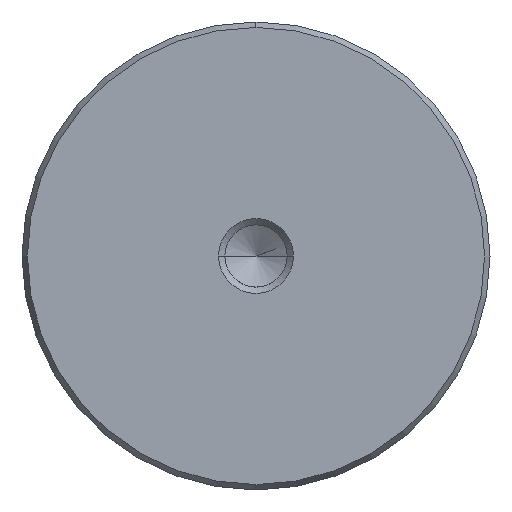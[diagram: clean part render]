
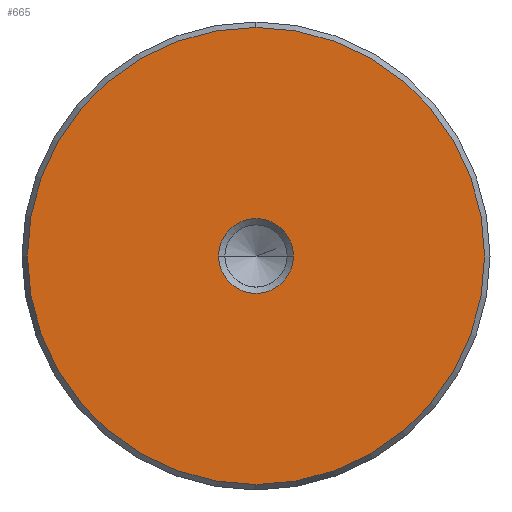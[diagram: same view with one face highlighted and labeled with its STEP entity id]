
A CAD part, left-side view. The second image highlights one B-rep face of the part: STEP entity #665.
In plain terms, the highlighted planar face has unit normal (-1, 0, 0).
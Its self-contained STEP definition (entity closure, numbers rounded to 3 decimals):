
#579=CARTESIAN_POINT('Vertex',(0.,0.,-24.423)) ;
#582=CARTESIAN_POINT('Axis2P3D Location',(0.,0.,0.)) ;
#586=CARTESIAN_POINT('Vertex',(0.,24.423,0.)) ;
#589=CARTESIAN_POINT('Axis2P3D Location',(0.,0.,0.)) ;
#593=CARTESIAN_POINT('Vertex',(0.,0.,24.423)) ;
#615=CARTESIAN_POINT('Axis2P3D Location',(0.,0.,0.)) ;
#619=CARTESIAN_POINT('Vertex',(0.,-24.423,0.)) ;
#622=CARTESIAN_POINT('Axis2P3D Location',(0.,0.,0.)) ;
#636=CARTESIAN_POINT('Axis2P3D Location',(0.,0.,0.)) ;
#647=CARTESIAN_POINT('Axis2P3D Location',(0.,0.,0.)) ;
#651=CARTESIAN_POINT('Vertex',(0.,4.,0.)) ;
#653=CARTESIAN_POINT('Vertex',(0.,-4.,0.)) ;
#656=CARTESIAN_POINT('Axis2P3D Location',(0.,0.,0.)) ;
#583=DIRECTION('Axis2P3D Direction',(1.,0.,-0.)) ;
#590=DIRECTION('Axis2P3D Direction',(1.,0.,-0.)) ;
#616=DIRECTION('Axis2P3D Direction',(1.,0.,-0.)) ;
#623=DIRECTION('Axis2P3D Direction',(1.,0.,-0.)) ;
#637=DIRECTION('Axis2P3D Direction',(1.,0.,-0.)) ;
#638=DIRECTION('Axis2P3D XDirection',(-0.,0.,-1.)) ;
#648=DIRECTION('Axis2P3D Direction',(1.,0.,-0.)) ;
#657=DIRECTION('Axis2P3D Direction',(1.,0.,-0.)) ;
#584=AXIS2_PLACEMENT_3D('Circle Axis2P3D',#582,#583,$) ;
#591=AXIS2_PLACEMENT_3D('Circle Axis2P3D',#589,#590,$) ;
#617=AXIS2_PLACEMENT_3D('Circle Axis2P3D',#615,#616,$) ;
#624=AXIS2_PLACEMENT_3D('Circle Axis2P3D',#622,#623,$) ;
#639=AXIS2_PLACEMENT_3D('Plane Axis2P3D',#636,#637,#638) ;
#649=AXIS2_PLACEMENT_3D('Circle Axis2P3D',#647,#648,$) ;
#658=AXIS2_PLACEMENT_3D('Circle Axis2P3D',#656,#657,$) ;
#642=ORIENTED_EDGE('',*,*,#588,.F.) ;
#643=ORIENTED_EDGE('',*,*,#626,.F.) ;
#644=ORIENTED_EDGE('',*,*,#621,.F.) ;
#645=ORIENTED_EDGE('',*,*,#595,.F.) ;
#662=ORIENTED_EDGE('',*,*,#655,.T.) ;
#663=ORIENTED_EDGE('',*,*,#660,.T.) ;
#664=FACE_BOUND('',#661,.T.) ;
#665=ADVANCED_FACE('720-50x500',(#646,#664),#640,.F.) ;
#585=CIRCLE('generated circle',#584,24.423) ;
#592=CIRCLE('generated circle',#591,24.423) ;
#618=CIRCLE('generated circle',#617,24.423) ;
#625=CIRCLE('generated circle',#624,24.423) ;
#650=CIRCLE('generated circle',#649,4.) ;
#659=CIRCLE('generated circle',#658,4.) ;
#588=EDGE_CURVE('',#580,#587,#585,.T.) ;
#595=EDGE_CURVE('',#587,#594,#592,.T.) ;
#621=EDGE_CURVE('',#594,#620,#618,.T.) ;
#626=EDGE_CURVE('',#620,#580,#625,.T.) ;
#655=EDGE_CURVE('',#652,#654,#650,.T.) ;
#660=EDGE_CURVE('',#654,#652,#659,.T.) ;
#641=EDGE_LOOP('',(#642,#643,#644,#645)) ;
#661=EDGE_LOOP('',(#662,#663)) ;
#646=FACE_OUTER_BOUND('',#641,.T.) ;
#640=PLANE('Plane',#639) ;
#580=VERTEX_POINT('',#579) ;
#587=VERTEX_POINT('',#586) ;
#594=VERTEX_POINT('',#593) ;
#620=VERTEX_POINT('',#619) ;
#652=VERTEX_POINT('',#651) ;
#654=VERTEX_POINT('',#653) ;
